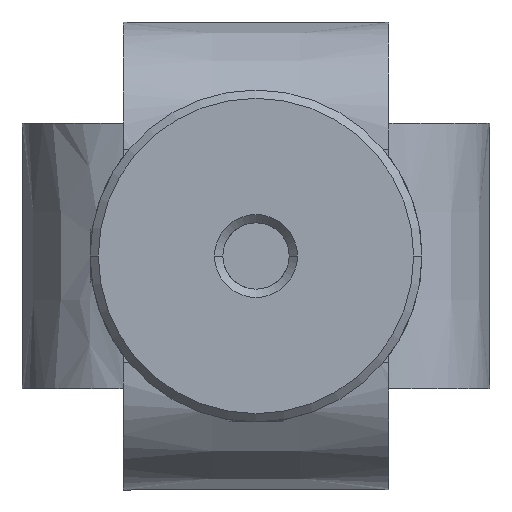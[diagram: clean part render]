
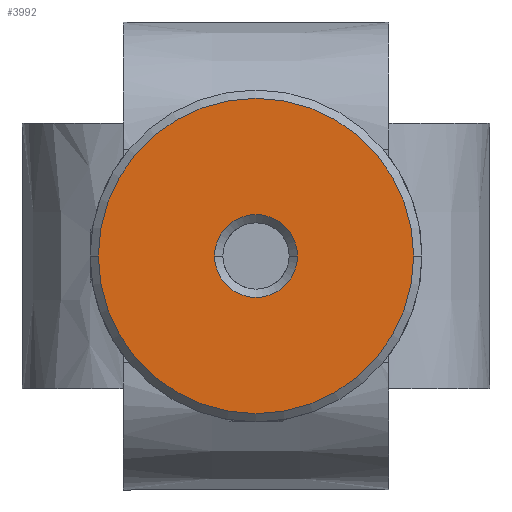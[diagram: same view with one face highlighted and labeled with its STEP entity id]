
A CAD part, front view. The second image highlights one B-rep face of the part: STEP entity #3992.
In plain terms, the highlighted planar face has unit normal (0, -1, 0).
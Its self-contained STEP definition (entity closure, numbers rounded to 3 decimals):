
#104 = EDGE_CURVE ( 'NONE', #7428, #264, #5334, .T. ) ;
#116 = EDGE_LOOP ( 'NONE', ( #6541, #5695 ) ) ;
#202 = EDGE_CURVE ( 'NONE', #264, #7428, #7568, .T. ) ;
#264 = VERTEX_POINT ( 'NONE', #3371 ) ;
#525 = DIRECTION ( 'NONE',  ( -1., 0., 0. ) ) ;
#1186 = CARTESIAN_POINT ( 'NONE',  ( 0., -35.24, 0. ) ) ;
#1219 = FACE_OUTER_BOUND ( 'NONE', #116, .T. ) ;
#1273 = CARTESIAN_POINT ( 'NONE',  ( -9.5, -35.24, 0. ) ) ;
#1623 = AXIS2_PLACEMENT_3D ( 'NONE', #1186, #7677, #525 ) ;
#2092 = CARTESIAN_POINT ( 'NONE',  ( 0., -35.24, 0. ) ) ;
#2243 = EDGE_CURVE ( 'NONE', #3612, #5589, #6209, .T. ) ;
#2986 = AXIS2_PLACEMENT_3D ( 'NONE', #5886, #5339, #6568 ) ;
#3344 = AXIS2_PLACEMENT_3D ( 'NONE', #2092, #6289, #3974 ) ;
#3371 = CARTESIAN_POINT ( 'NONE',  ( 2.5, -35.24, 0. ) ) ;
#3612 = VERTEX_POINT ( 'NONE', #3623 ) ;
#3623 = CARTESIAN_POINT ( 'NONE',  ( 9.5, -35.24, 0. ) ) ;
#3974 = DIRECTION ( 'NONE',  ( -1., 0., 0. ) ) ;
#3992 = ADVANCED_FACE ( 'NONE', ( #4042, #1219 ), #6990, .T. ) ;
#4042 = FACE_BOUND ( 'NONE', #7125, .T. ) ;
#4130 = ORIENTED_EDGE ( 'NONE', *, *, #202, .T. ) ;
#4475 = AXIS2_PLACEMENT_3D ( 'NONE', #6319, #6297, #6248 ) ;
#4593 = DIRECTION ( 'NONE',  ( -1., 0., 0. ) ) ;
#4645 = ORIENTED_EDGE ( 'NONE', *, *, #104, .T. ) ;
#4819 = AXIS2_PLACEMENT_3D ( 'NONE', #7542, #6937, #4593 ) ;
#5334 = CIRCLE ( 'NONE', #2986, 2.5 ) ;
#5339 = DIRECTION ( 'NONE',  ( 0., 1., 0. ) ) ;
#5589 = VERTEX_POINT ( 'NONE', #1273 ) ;
#5695 = ORIENTED_EDGE ( 'NONE', *, *, #6639, .T. ) ;
#5886 = CARTESIAN_POINT ( 'NONE',  ( 0., -35.24, 0. ) ) ;
#6209 = CIRCLE ( 'NONE', #3344, 9.5 ) ;
#6248 = DIRECTION ( 'NONE',  ( -1., 0., 0. ) ) ;
#6289 = DIRECTION ( 'NONE',  ( 0., -1., 0. ) ) ;
#6297 = DIRECTION ( 'NONE',  ( 0., -1., 0. ) ) ;
#6319 = CARTESIAN_POINT ( 'NONE',  ( 0., -35.24, 0. ) ) ;
#6541 = ORIENTED_EDGE ( 'NONE', *, *, #2243, .T. ) ;
#6568 = DIRECTION ( 'NONE',  ( -1., 0., 0. ) ) ;
#6639 = EDGE_CURVE ( 'NONE', #5589, #3612, #6999, .T. ) ;
#6937 = DIRECTION ( 'NONE',  ( 0., -1., 0. ) ) ;
#6990 = PLANE ( 'NONE',  #4819 ) ;
#6999 = CIRCLE ( 'NONE', #4475, 9.5 ) ;
#7125 = EDGE_LOOP ( 'NONE', ( #4645, #4130 ) ) ;
#7428 = VERTEX_POINT ( 'NONE', #7785 ) ;
#7542 = CARTESIAN_POINT ( 'NONE',  ( 0., -35.24, 0. ) ) ;
#7568 = CIRCLE ( 'NONE', #1623, 2.5 ) ;
#7677 = DIRECTION ( 'NONE',  ( 0., 1., 0. ) ) ;
#7785 = CARTESIAN_POINT ( 'NONE',  ( -2.5, -35.24, 0. ) ) ;
